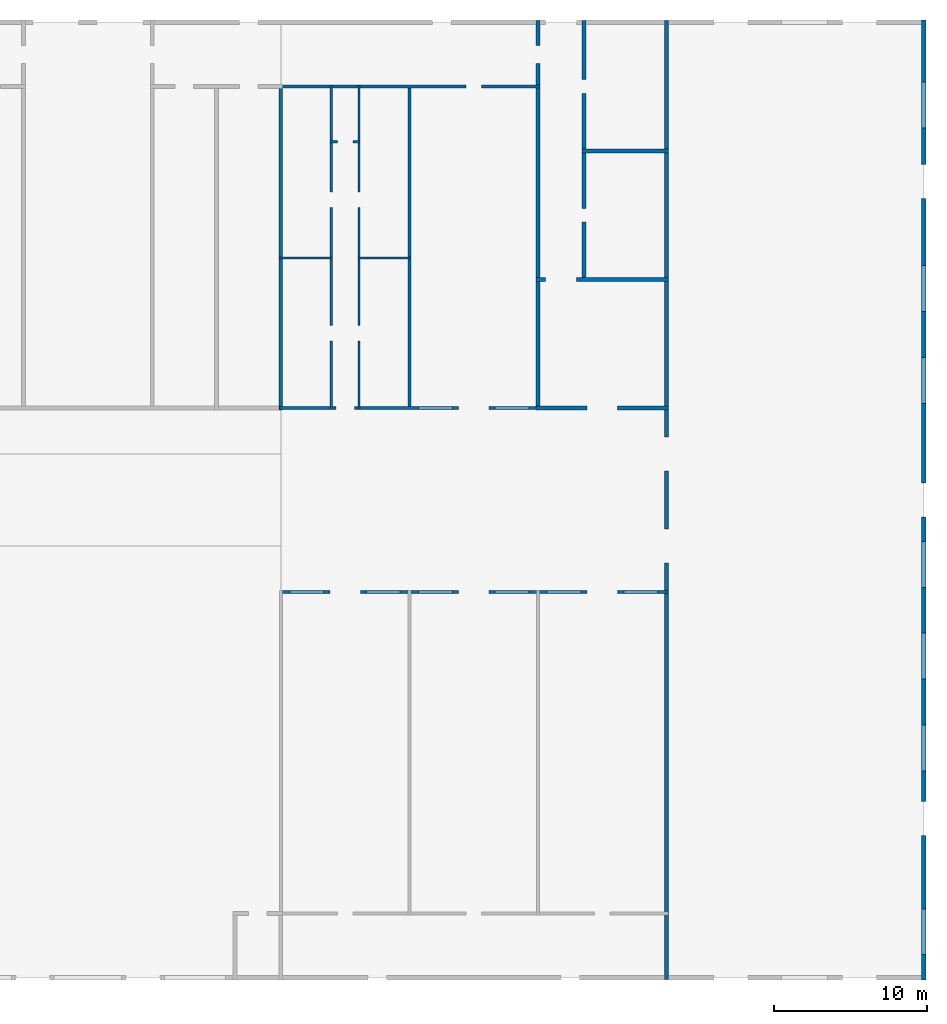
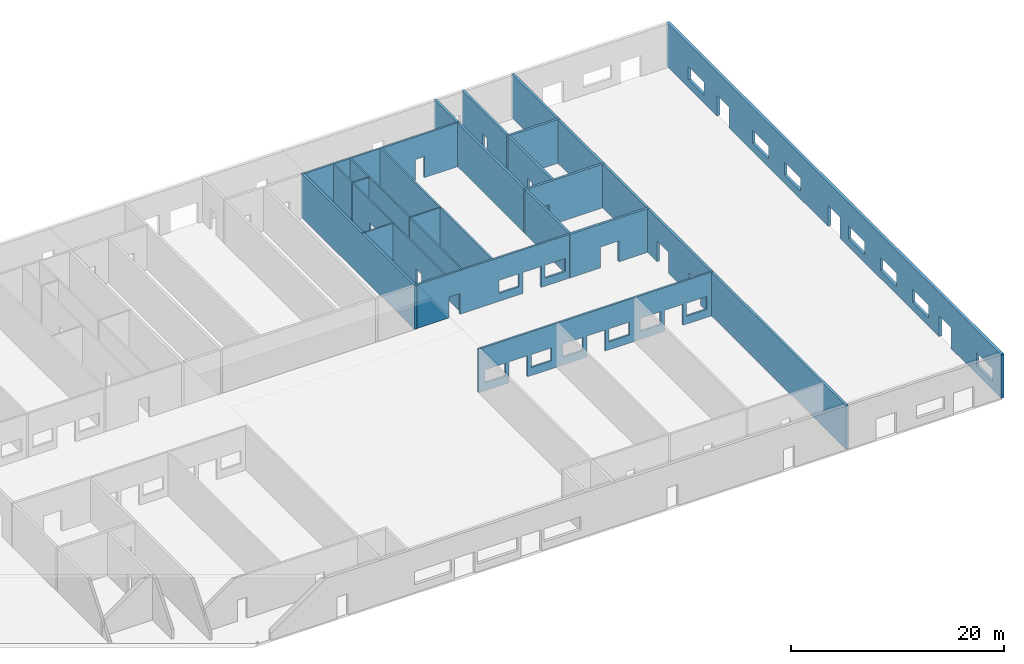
# One storey, part 3 of 3: 17 walls, 47 openings.
"""IFC4 building model written with IfcOpenShell, lengths in millimetres."""

from ifc_helpers import new_model, si_unit, frame, origin_with_axes, place, context, subcontext, project, spatial, indexed_curve, outline, extrude, type_object, element, save


model = new_model("IFC4")

# Units and contexts
model_context = context("Model", 3, precision=1e-05, world=origin_with_axes())
body_context = subcontext(model_context, "Body", "Model", "MODEL_VIEW")
ifc_project = project(units=[si_unit("AREAUNIT", "SQUARE_METRE"), si_unit("VOLUMEUNIT", "CUBIC_METRE"), si_unit("LENGTHUNIT", "METRE", prefix="MILLI")], contexts=[model_context])

# Site, building, storey
site = spatial("IfcSite", under=ifc_project, Name="PIN 00000000 (sample)")
building = spatial("IfcBuilding", under=site, Name="Sample Shopping Mall")
storey = spatial("IfcBuildingStorey", under=building, Name="Ground Floor", Elevation=0.0)

# Wall, openings
wall_type_1 = type_object("IfcWallType", Name="WT-300", PredefinedType="SOLIDWALL")
wall_1_placement = place(None, frame((114750.0, 15449.999999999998, 0.0), z_axis=(0.0, 0.0, 1.0), x_axis=(6.123233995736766e-17, 1.0, 0.0)))
wall_1 = element("IfcWall", 1, at=wall_1_placement, inside=storey, type_object=wall_type_1, Name="W56", context=body_context, shape_type="SweptSolid", body=[
    extrude(outline(indexed_curve([(0.0, 0.0), (0.0, 300.0), (62699.99999999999, 300.0), (62699.99999999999, 0.0), (0.0, 0.0)], self_intersect=False)), origin_with_axes(), (0.0, 0.0, 1.0), 5000.0),
])
opening_1_placement = place(wall_1_placement, frame((9450.0, -99.99999999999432, 0.0), z_axis=(0.0, 0.0, 1.0), x_axis=(1.0, 0.0, 0.0)))
element("IfcOpeningElement", 2, at=opening_1_placement, cuts=wall_1, Name="D16-opening", context=body_context, shape_type="SweptSolid", body=[
    extrude(outline(indexed_curve([(0.0, 0.0), (0.0, 500.0), (1100.0, 500.0), (1100.0, 0.0), (0.0, 0.0)], self_intersect=False)), origin_with_axes(), (0.0, 0.0, 1.0), 2400.0),
])
opening_2_placement = place(wall_1_placement, frame((10550.0, -99.99999999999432, 0.0), z_axis=(0.0, 0.0, 1.0), x_axis=(1.0, 0.0, 0.0)))
element("IfcOpeningElement", 3, at=opening_2_placement, cuts=wall_1, Name="-opening", context=body_context, shape_type="SweptSolid", body=[
    extrude(outline(indexed_curve([(0.0, 0.0), (0.0, 500.0), (1100.0, 500.0), (1100.0, 0.0), (0.0, 0.0)], self_intersect=False)), origin_with_axes(), (0.0, 0.0, 1.0), 2400.0),
])
opening_3_placement = place(wall_1_placement, frame((30250.000000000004, -99.99999999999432, 0.0), z_axis=(0.0, 0.0, 1.0), x_axis=(1.0, 0.0, 0.0)))
element("IfcOpeningElement", 4, at=opening_3_placement, cuts=wall_1, Name="D17-opening", context=body_context, shape_type="SweptSolid", body=[
    extrude(outline(indexed_curve([(0.0, 0.0), (0.0, 500.0), (1100.0, 500.0), (1100.0, 0.0), (0.0, 0.0)], self_intersect=False)), origin_with_axes(), (0.0, 0.0, 1.0), 2400.0),
])
opening_4_placement = place(wall_1_placement, frame((31349.999999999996, -99.99999999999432, 0.0), z_axis=(0.0, 0.0, 1.0), x_axis=(1.0, 0.0, 0.0)))
element("IfcOpeningElement", 5, at=opening_4_placement, cuts=wall_1, Name="-opening", context=body_context, shape_type="SweptSolid", body=[
    extrude(outline(indexed_curve([(0.0, 0.0), (0.0, 500.0), (1100.0, 500.0), (1100.0, 0.0), (0.0, 0.0)], self_intersect=False)), origin_with_axes(), (0.0, 0.0, 1.0), 2400.0),
])
opening_5_placement = place(wall_1_placement, frame((51049.99999999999, -99.99999999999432, 0.0), z_axis=(0.0, 0.0, 1.0), x_axis=(1.0, 0.0, 0.0)))
element("IfcOpeningElement", 6, at=opening_5_placement, cuts=wall_1, Name="D18-opening", context=body_context, shape_type="SweptSolid", body=[
    extrude(outline(indexed_curve([(0.0, 0.0), (0.0, 500.0), (1100.0, 500.0), (1100.0, 0.0), (0.0, 0.0)], self_intersect=False)), origin_with_axes(), (0.0, 0.0, 1.0), 2400.0),
])
opening_6_placement = place(wall_1_placement, frame((52149.99999999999, -99.99999999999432, 0.0), z_axis=(0.0, 0.0, 1.0), x_axis=(1.0, 0.0, 0.0)))
element("IfcOpeningElement", 7, at=opening_6_placement, cuts=wall_1, Name="-opening", context=body_context, shape_type="SweptSolid", body=[
    extrude(outline(indexed_curve([(0.0, 0.0), (0.0, 500.0), (1100.0, 500.0), (1100.0, 0.0), (0.0, 0.0)], self_intersect=False)), origin_with_axes(), (0.0, 0.0, 1.0), 2400.0),
])
opening_7_placement = place(wall_1_placement, frame((1650.000000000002, -99.99999999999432, 900.0), z_axis=(0.0, 0.0, 1.0), x_axis=(1.0, 0.0, 0.0)))
element("IfcOpeningElement", 8, at=opening_7_placement, cuts=wall_1, Name="-opening", context=body_context, shape_type="SweptSolid", body=[
    extrude(outline(indexed_curve([(0.0, 0.0), (0.0, 500.0), (3000.0, 500.0), (3000.0, 0.0), (0.0, 0.0)], self_intersect=False)), origin_with_axes(), (0.0, 0.0, 1.0), 1500.0),
])
opening_8_placement = place(wall_1_placement, frame((13650.000000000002, -99.99999999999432, 900.0), z_axis=(0.0, 0.0, 1.0), x_axis=(1.0, 0.0, 0.0)))
element("IfcOpeningElement", 9, at=opening_8_placement, cuts=wall_1, Name="-opening", context=body_context, shape_type="SweptSolid", body=[
    extrude(outline(indexed_curve([(0.0, 0.0), (0.0, 500.0), (3000.0, 500.0), (3000.0, 0.0), (0.0, 0.0)], self_intersect=False)), origin_with_axes(), (0.0, 0.0, 1.0), 1500.0),
])
opening_9_placement = place(wall_1_placement, frame((19650.0, -99.99999999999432, 900.0), z_axis=(0.0, 0.0, 1.0), x_axis=(1.0, 0.0, 0.0)))
element("IfcOpeningElement", 10, at=opening_9_placement, cuts=wall_1, Name="-opening", context=body_context, shape_type="SweptSolid", body=[
    extrude(outline(indexed_curve([(0.0, 0.0), (0.0, 500.0), (3000.0, 500.0), (3000.0, 0.0), (0.0, 0.0)], self_intersect=False)), origin_with_axes(), (0.0, 0.0, 1.0), 1500.0),
])
opening_10_placement = place(wall_1_placement, frame((25650.0, -99.99999999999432, 900.0), z_axis=(0.0, 0.0, 1.0), x_axis=(1.0, 0.0, 0.0)))
element("IfcOpeningElement", 11, at=opening_10_placement, cuts=wall_1, Name="-opening", context=body_context, shape_type="SweptSolid", body=[
    extrude(outline(indexed_curve([(0.0, 0.0), (0.0, 500.0), (3000.0, 500.0), (3000.0, 0.0), (0.0, 0.0)], self_intersect=False)), origin_with_axes(), (0.0, 0.0, 1.0), 1500.0),
])
opening_11_placement = place(wall_1_placement, frame((37650.00000000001, -99.99999999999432, 900.0), z_axis=(0.0, 0.0, 1.0), x_axis=(1.0, 0.0, 0.0)))
element("IfcOpeningElement", 12, at=opening_11_placement, cuts=wall_1, Name="-opening", context=body_context, shape_type="SweptSolid", body=[
    extrude(outline(indexed_curve([(0.0, 0.0), (0.0, 500.0), (3000.0, 500.0), (3000.0, 0.0), (0.0, 0.0)], self_intersect=False)), origin_with_axes(), (0.0, 0.0, 1.0), 1500.0),
])
opening_12_placement = place(wall_1_placement, frame((43650.00000000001, -99.99999999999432, 900.0), z_axis=(0.0, 0.0, 1.0), x_axis=(1.0, 0.0, 0.0)))
element("IfcOpeningElement", 13, at=opening_12_placement, cuts=wall_1, Name="-opening", context=body_context, shape_type="SweptSolid", body=[
    extrude(outline(indexed_curve([(0.0, 0.0), (0.0, 500.0), (3000.0, 500.0), (3000.0, 0.0), (0.0, 0.0)], self_intersect=False)), origin_with_axes(), (0.0, 0.0, 1.0), 1500.0),
])
opening_13_placement = place(wall_1_placement, frame((55650.00000000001, -99.99999999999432, 900.0), z_axis=(0.0, 0.0, 1.0), x_axis=(1.0, 0.0, 0.0)))
element("IfcOpeningElement", 14, at=opening_13_placement, cuts=wall_1, Name="-opening", context=body_context, shape_type="SweptSolid", body=[
    extrude(outline(indexed_curve([(0.0, 0.0), (0.0, 500.0), (3000.0, 500.0), (3000.0, 0.0), (0.0, 0.0)], self_intersect=False)), origin_with_axes(), (0.0, 0.0, 1.0), 1500.0),
])

wall_type_2 = type_object("IfcWallType", Name="WT-200", PredefinedType="SOLIDWALL")
wall_2_placement = place(None, frame((72500.0, 40699.99999999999, 0.0), z_axis=(0.0, 0.0, 1.0), x_axis=(1.0, 0.0, 0.0)))
wall_2 = element("IfcWall", 15, at=wall_2_placement, inside=storey, type_object=wall_type_2, Name="W9", context=body_context, shape_type="SweptSolid", body=[
    extrude(outline(indexed_curve([(0.0, 0.0), (0.0, 200.0), (25400.0, 200.0), (25400.0, 0.0), (0.0, 0.0)], self_intersect=False)), origin_with_axes(), (0.0, 0.0, 1.0), 5000.0),
])
opening_14_placement = place(wall_2_placement, frame((3299.9999999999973, -100.00000000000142, 0.0), z_axis=(0.0, 0.0, 1.0), x_axis=(1.0, 0.0, 0.0)))
element("IfcOpeningElement", 16, at=opening_14_placement, cuts=wall_2, Name="D41-opening", context=body_context, shape_type="SweptSolid", body=[
    extrude(outline(indexed_curve([(0.0, 0.0), (0.0, 400.0), (1000.0, 400.0), (1000.0, 0.0), (0.0, 0.0)], self_intersect=False)), origin_with_axes(), (0.0, 0.0, 1.0), 2400.0),
])
opening_15_placement = place(wall_2_placement, frame((4299.999999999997, -100.00000000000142, 0.0), z_axis=(0.0, 0.0, 1.0), x_axis=(1.0, 0.0, 0.0)))
element("IfcOpeningElement", 17, at=opening_15_placement, cuts=wall_2, Name="-opening", context=body_context, shape_type="SweptSolid", body=[
    extrude(outline(indexed_curve([(0.0, 0.0), (0.0, 400.0), (1000.0, 400.0), (1000.0, 0.0), (0.0, 0.0)], self_intersect=False)), origin_with_axes(), (0.0, 0.0, 1.0), 2400.0),
])
opening_16_placement = place(wall_2_placement, frame((11699.999999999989, -100.00000000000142, 0.0), z_axis=(0.0, 0.0, 1.0), x_axis=(1.0, 0.0, 0.0)))
element("IfcOpeningElement", 18, at=opening_16_placement, cuts=wall_2, Name="D43-opening", context=body_context, shape_type="SweptSolid", body=[
    extrude(outline(indexed_curve([(0.0, 0.0), (0.0, 400.0), (1000.0, 400.0), (1000.0, 0.0), (0.0, 0.0)], self_intersect=False)), origin_with_axes(), (0.0, 0.0, 1.0), 2400.0),
])
opening_17_placement = place(wall_2_placement, frame((12699.999999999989, -100.00000000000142, 0.0), z_axis=(0.0, 0.0, 1.0), x_axis=(1.0, 0.0, 0.0)))
element("IfcOpeningElement", 19, at=opening_17_placement, cuts=wall_2, Name="-opening", context=body_context, shape_type="SweptSolid", body=[
    extrude(outline(indexed_curve([(0.0, 0.0), (0.0, 400.0), (1000.0, 400.0), (1000.0, 0.0), (0.0, 0.0)], self_intersect=False)), origin_with_axes(), (0.0, 0.0, 1.0), 2400.0),
])
opening_18_placement = place(wall_2_placement, frame((20099.999999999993, -100.00000000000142, 0.0), z_axis=(0.0, 0.0, 1.0), x_axis=(1.0, 0.0, 0.0)))
element("IfcOpeningElement", 20, at=opening_18_placement, cuts=wall_2, Name="D45-opening", context=body_context, shape_type="SweptSolid", body=[
    extrude(outline(indexed_curve([(0.0, 0.0), (0.0, 400.0), (1000.0, 400.0), (1000.0, 0.0), (0.0, 0.0)], self_intersect=False)), origin_with_axes(), (0.0, 0.0, 1.0), 2400.0),
])
opening_19_placement = place(wall_2_placement, frame((21099.999999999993, -100.00000000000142, 0.0), z_axis=(0.0, 0.0, 1.0), x_axis=(1.0, 0.0, 0.0)))
element("IfcOpeningElement", 21, at=opening_19_placement, cuts=wall_2, Name="-opening", context=body_context, shape_type="SweptSolid", body=[
    extrude(outline(indexed_curve([(0.0, 0.0), (0.0, 400.0), (1000.0, 400.0), (1000.0, 0.0), (0.0, 0.0)], self_intersect=False)), origin_with_axes(), (0.0, 0.0, 1.0), 2400.0),
])
opening_20_placement = place(wall_2_placement, frame((699.9999999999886, -100.00000000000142, 900.0), z_axis=(0.0, 0.0, 1.0), x_axis=(1.0, 0.0, 0.0)))
element("IfcOpeningElement", 22, at=opening_20_placement, cuts=wall_2, Name="-opening", context=body_context, shape_type="SweptSolid", body=[
    extrude(outline(indexed_curve([(0.0, 0.0), (0.0, 400.0), (2200.0, 400.0), (2200.0, 0.0), (0.0, 0.0)], self_intersect=False)), origin_with_axes(), (0.0, 0.0, 1.0), 1500.0),
])
opening_21_placement = place(wall_2_placement, frame((5699.999999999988, -100.00000000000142, 900.0), z_axis=(0.0, 0.0, 1.0), x_axis=(1.0, 0.0, 0.0)))
element("IfcOpeningElement", 23, at=opening_21_placement, cuts=wall_2, Name="-opening", context=body_context, shape_type="SweptSolid", body=[
    extrude(outline(indexed_curve([(0.0, 0.0), (0.0, 400.0), (2200.0, 400.0), (2200.0, 0.0), (0.0, 0.0)], self_intersect=False)), origin_with_axes(), (0.0, 0.0, 1.0), 1500.0),
])
opening_22_placement = place(wall_2_placement, frame((9099.99999999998, -100.00000000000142, 900.0), z_axis=(0.0, 0.0, 1.0), x_axis=(1.0, 0.0, 0.0)))
element("IfcOpeningElement", 24, at=opening_22_placement, cuts=wall_2, Name="-opening", context=body_context, shape_type="SweptSolid", body=[
    extrude(outline(indexed_curve([(0.0, 0.0), (0.0, 400.0), (2200.0, 400.0), (2200.0, 0.0), (0.0, 0.0)], self_intersect=False)), origin_with_axes(), (0.0, 0.0, 1.0), 1500.0),
])
opening_23_placement = place(wall_2_placement, frame((14099.999999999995, -100.00000000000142, 900.0), z_axis=(0.0, 0.0, 1.0), x_axis=(1.0, 0.0, 0.0)))
element("IfcOpeningElement", 25, at=opening_23_placement, cuts=wall_2, Name="-opening", context=body_context, shape_type="SweptSolid", body=[
    extrude(outline(indexed_curve([(0.0, 0.0), (0.0, 400.0), (2200.0, 400.0), (2200.0, 0.0), (0.0, 0.0)], self_intersect=False)), origin_with_axes(), (0.0, 0.0, 1.0), 1500.0),
])
opening_24_placement = place(wall_2_placement, frame((17500.0, -100.00000000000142, 900.0), z_axis=(0.0, 0.0, 1.0), x_axis=(1.0, 0.0, 0.0)))
element("IfcOpeningElement", 26, at=opening_24_placement, cuts=wall_2, Name="-opening", context=body_context, shape_type="SweptSolid", body=[
    extrude(outline(indexed_curve([(0.0, 0.0), (0.0, 400.0), (2200.0, 400.0), (2200.0, 0.0), (0.0, 0.0)], self_intersect=False)), origin_with_axes(), (0.0, 0.0, 1.0), 1500.0),
])
opening_25_placement = place(wall_2_placement, frame((22500.0, -100.00000000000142, 900.0), z_axis=(0.0, 0.0, 1.0), x_axis=(1.0, 0.0, 0.0)))
element("IfcOpeningElement", 27, at=opening_25_placement, cuts=wall_2, Name="-opening", context=body_context, shape_type="SweptSolid", body=[
    extrude(outline(indexed_curve([(0.0, 0.0), (0.0, 400.0), (2200.0, 400.0), (2200.0, 0.0), (0.0, 0.0)], self_intersect=False)), origin_with_axes(), (0.0, 0.0, 1.0), 1500.0),
])

wall_3_placement = place(None, frame((72500.0, 52699.99999999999, 0.0), z_axis=(0.0, 0.0, 1.0), x_axis=(1.0, 0.0, 0.0)))
wall_3 = element("IfcWall", 28, at=wall_3_placement, inside=storey, type_object=wall_type_2, Name="W12", context=body_context, shape_type="SweptSolid", body=[
    extrude(outline(indexed_curve([(0.0, 0.0), (0.0, 200.0), (17000.00000000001, 200.0), (17000.00000000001, 0.0), (0.0, 0.0)], self_intersect=False)), origin_with_axes(), (0.0, 0.0, 1.0), 5000.0),
])
opening_26_placement = place(wall_3_placement, frame((3699.9999999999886, -100.00000000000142, 0.0), z_axis=(0.0, 0.0, 1.0), x_axis=(1.0, 0.0, 0.0)))
element("IfcOpeningElement", 29, at=opening_26_placement, cuts=wall_3, Name="D65-opening", context=body_context, shape_type="SweptSolid", body=[
    extrude(outline(indexed_curve([(0.0, 0.0), (0.0, 400.0), (1200.0, 400.0), (1200.0, 0.0), (0.0, 0.0)], self_intersect=False)), origin_with_axes(), (0.0, 0.0, 1.0), 2400.0),
])
opening_27_placement = place(wall_3_placement, frame((11699.999999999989, -100.00000000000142, 0.0), z_axis=(0.0, 0.0, 1.0), x_axis=(1.0, 0.0, 0.0)))
element("IfcOpeningElement", 30, at=opening_27_placement, cuts=wall_3, Name="D71-opening", context=body_context, shape_type="SweptSolid", body=[
    extrude(outline(indexed_curve([(0.0, 0.0), (0.0, 400.0), (1000.0, 400.0), (1000.0, 0.0), (0.0, 0.0)], self_intersect=False)), origin_with_axes(), (0.0, 0.0, 1.0), 2400.0),
])
opening_28_placement = place(wall_3_placement, frame((12699.999999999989, -100.00000000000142, 0.0), z_axis=(0.0, 0.0, 1.0), x_axis=(1.0, 0.0, 0.0)))
element("IfcOpeningElement", 31, at=opening_28_placement, cuts=wall_3, Name="-opening", context=body_context, shape_type="SweptSolid", body=[
    extrude(outline(indexed_curve([(0.0, 0.0), (0.0, 400.0), (1000.0, 400.0), (1000.0, 0.0), (0.0, 0.0)], self_intersect=False)), origin_with_axes(), (0.0, 0.0, 1.0), 2400.0),
])
opening_29_placement = place(wall_3_placement, frame((9099.99999999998, -100.00000000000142, 900.0), z_axis=(0.0, 0.0, 1.0), x_axis=(1.0, 0.0, 0.0)))
element("IfcOpeningElement", 32, at=opening_29_placement, cuts=wall_3, Name="-opening", context=body_context, shape_type="SweptSolid", body=[
    extrude(outline(indexed_curve([(0.0, 0.0), (0.0, 400.0), (2200.0, 400.0), (2200.0, 0.0), (0.0, 0.0)], self_intersect=False)), origin_with_axes(), (0.0, 0.0, 1.0), 1500.0),
])
opening_30_placement = place(wall_3_placement, frame((14099.999999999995, -100.00000000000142, 900.0), z_axis=(0.0, 0.0, 1.0), x_axis=(1.0, 0.0, 0.0)))
element("IfcOpeningElement", 33, at=opening_30_placement, cuts=wall_3, Name="-opening", context=body_context, shape_type="SweptSolid", body=[
    extrude(outline(indexed_curve([(0.0, 0.0), (0.0, 400.0), (2200.0, 400.0), (2200.0, 0.0), (0.0, 0.0)], self_intersect=False)), origin_with_axes(), (0.0, 0.0, 1.0), 1500.0),
])

# Wall, opening
wall_4_placement = place(None, frame((72500.0, 73700.0, 0.0), z_axis=(0.0, 0.0, 1.0), x_axis=(1.0, 0.0, 0.0)))
wall_4 = element("IfcWall", 34, at=wall_4_placement, inside=storey, type_object=wall_type_2, Name="W25", context=body_context, shape_type="SweptSolid", body=[
    extrude(outline(indexed_curve([(0.0, 0.0), (0.0, 200.0), (17000.00000000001, 200.0), (17000.00000000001, 0.0), (0.0, 0.0)], self_intersect=False)), origin_with_axes(), (0.0, 0.0, 1.0), 5000.0),
])
opening_31_placement = place(wall_4_placement, frame((12199.999999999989, -99.99999999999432, 0.0), z_axis=(0.0, 0.0, 1.0), x_axis=(1.0, 0.0, 0.0)))
element("IfcOpeningElement", 35, at=opening_31_placement, cuts=wall_4, Name="-opening", context=body_context, shape_type="SweptSolid", body=[
    extrude(outline(indexed_curve([(0.0, 0.0), (0.0, 400.0), (1000.0, 400.0), (1000.0, 0.0), (0.0, 0.0)], self_intersect=False)), origin_with_axes(), (0.0, 0.0, 1.0), 2400.0),
])

# Wall
wall_5_placement = place(None, frame((81099.99999999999, 52699.99999999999, 0.0), z_axis=(0.0, 0.0, 1.0), x_axis=(6.123233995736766e-17, 1.0, 0.0)))
element("IfcWall", 36, at=wall_5_placement, inside=storey, type_object=wall_type_2, Name="W51", context=body_context, shape_type="SweptSolid", body=[
    extrude(outline(indexed_curve([(0.0, 0.0), (0.0, 200.0), (21200.0, 200.0), (21200.0, 0.0), (0.0, 0.0)], self_intersect=False)), origin_with_axes(), (0.0, 0.0, 1.0), 5000.0),
])

# Wall, openings
wall_type_3 = type_object("IfcWallType", Name="WT-250", PredefinedType="SOLIDWALL")
wall_6_placement = place(None, frame((89275.0, 52674.99999999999, 0.0), z_axis=(0.0, 0.0, 1.0), x_axis=(1.0, 0.0, 0.0)))
wall_6 = element("IfcWall", 37, at=wall_6_placement, inside=storey, type_object=wall_type_3, Name="W13", context=body_context, shape_type="SweptSolid", body=[
    extrude(outline(indexed_curve([(0.0, 0.0), (0.0, 250.0), (8649.99999999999, 250.0), (8649.99999999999, 0.0), (0.0, 0.0)], self_intersect=False)), origin_with_axes(), (0.0, 0.0, 1.0), 5000.0),
])
opening_32_placement = place(wall_6_placement, frame((3325.0000000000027, -100.00000000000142, 0.0), z_axis=(0.0, 0.0, 1.0), x_axis=(1.0, 0.0, 0.0)))
element("IfcOpeningElement", 38, at=opening_32_placement, cuts=wall_6, Name="D73-opening", context=body_context, shape_type="SweptSolid", body=[
    extrude(outline(indexed_curve([(0.0, 0.0), (0.0, 450.0), (1000.0, 450.0), (1000.0, 0.0), (0.0, 0.0)], self_intersect=False)), origin_with_axes(), (0.0, 0.0, 1.0), 2400.0),
])
opening_33_placement = place(wall_6_placement, frame((4325.000000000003, -100.00000000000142, 0.0), z_axis=(0.0, 0.0, 1.0), x_axis=(1.0, 0.0, 0.0)))
element("IfcOpeningElement", 39, at=opening_33_placement, cuts=wall_6, Name="-opening", context=body_context, shape_type="SweptSolid", body=[
    extrude(outline(indexed_curve([(0.0, 0.0), (0.0, 450.0), (1000.0, 450.0), (1000.0, 0.0), (0.0, 0.0)], self_intersect=False)), origin_with_axes(), (0.0, 0.0, 1.0), 2400.0),
])

wall_7_placement = place(None, frame((89275.0, 61075.0, 0.0), z_axis=(0.0, 0.0, 1.0), x_axis=(1.0, 0.0, 0.0)))
wall_7 = element("IfcWall", 40, at=wall_7_placement, inside=storey, type_object=wall_type_3, Name="W14", context=body_context, shape_type="SweptSolid", body=[
    extrude(outline(indexed_curve([(0.0, 0.0), (0.0, 250.0), (8649.99999999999, 250.0), (8649.99999999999, 0.0), (0.0, 0.0)], self_intersect=False)), origin_with_axes(), (0.0, 0.0, 1.0), 5000.0),
])
opening_34_placement = place(wall_7_placement, frame((625.0, -100.00000000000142, 0.0), z_axis=(0.0, 0.0, 1.0), x_axis=(1.0, 0.0, 0.0)))
element("IfcOpeningElement", 41, at=opening_34_placement, cuts=wall_7, Name="D74-opening", context=body_context, shape_type="SweptSolid", body=[
    extrude(outline(indexed_curve([(0.0, 0.0), (0.0, 450.0), (1000.0, 450.0), (1000.0, 0.0), (0.0, 0.0)], self_intersect=False)), origin_with_axes(), (0.0, 0.0, 1.0), 2400.0),
])
opening_35_placement = place(wall_7_placement, frame((1625.0, -100.00000000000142, 0.0), z_axis=(0.0, 0.0, 1.0), x_axis=(1.0, 0.0, 0.0)))
element("IfcOpeningElement", 42, at=opening_35_placement, cuts=wall_7, Name="-opening", context=body_context, shape_type="SweptSolid", body=[
    extrude(outline(indexed_curve([(0.0, 0.0), (0.0, 450.0), (1000.0, 450.0), (1000.0, 0.0), (0.0, 0.0)], self_intersect=False)), origin_with_axes(), (0.0, 0.0, 1.0), 2400.0),
])

# Walls
wall_8_placement = place(None, frame((92275.0, 69475.0, 0.0), z_axis=(0.0, 0.0, 1.0), x_axis=(1.0, 0.0, 0.0)))
element("IfcWall", 43, at=wall_8_placement, inside=storey, type_object=wall_type_3, Name="W19", context=body_context, shape_type="SweptSolid", body=[
    extrude(outline(indexed_curve([(0.0, 0.0), (0.0, 250.0), (5649.999999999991, 250.0), (5649.999999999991, 0.0), (0.0, 0.0)], self_intersect=False)), origin_with_axes(), (0.0, 0.0, 1.0), 5000.0),
])
wall_9_placement = place(None, frame((72725.0, 52674.99999999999, 0.0), z_axis=(0.0, 0.0, 1.0), x_axis=(6.123233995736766e-17, 1.0, 0.0)))
element("IfcWall", 44, at=wall_9_placement, inside=storey, type_object=wall_type_3, Name="W47", context=body_context, shape_type="SweptSolid", body=[
    extrude(outline(indexed_curve([(0.0, 0.0), (0.0, 250.0), (21250.0, 250.0), (21250.0, 0.0), (0.0, 0.0)], self_intersect=False)), origin_with_axes(), (0.0, 0.0, 1.0), 5000.0),
])

# Wall, opening
wall_10_placement = place(None, frame((89525.0, 52674.99999999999, 0.0), z_axis=(0.0, 0.0, 1.0), x_axis=(6.123233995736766e-17, 1.0, 0.0)))
wall_10 = element("IfcWall", 45, at=wall_10_placement, inside=storey, type_object=wall_type_3, Name="W53", context=body_context, shape_type="SweptSolid", body=[
    extrude(outline(indexed_curve([(0.0, 0.0), (0.0, 250.0), (25450.000000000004, 250.0), (25450.000000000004, 0.0), (0.0, 0.0)], self_intersect=False)), origin_with_axes(), (0.0, 0.0, 1.0), 5000.0),
])
opening_36_placement = place(wall_10_placement, frame((22624.999999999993, -99.99999999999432, 0.0), z_axis=(0.0, 0.0, 1.0), x_axis=(1.0, 0.0, 0.0)))
element("IfcOpeningElement", 46, at=opening_36_placement, cuts=wall_10, Name="-opening", context=body_context, shape_type="SweptSolid", body=[
    extrude(outline(indexed_curve([(0.0, 0.0), (0.0, 450.0), (1200.0, 450.0), (1200.0, 0.0), (0.0, 0.0)], self_intersect=False)), origin_with_axes(), (0.0, 0.0, 1.0), 2400.0),
])

# Wall, openings
wall_11_placement = place(None, frame((92525.0, 61075.0, 0.0), z_axis=(0.0, 0.0, 1.0), x_axis=(6.123233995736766e-17, 1.0, 0.0)))
wall_11 = element("IfcWall", 47, at=wall_11_placement, inside=storey, type_object=wall_type_3, Name="W54", context=body_context, shape_type="SweptSolid", body=[
    extrude(outline(indexed_curve([(0.0, 0.0), (0.0, 250.0), (17049.999999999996, 250.0), (17049.999999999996, 0.0), (0.0, 0.0)], self_intersect=False)), origin_with_axes(), (0.0, 0.0, 1.0), 5000.0),
])
opening_37_placement = place(wall_11_placement, frame((3874.9999999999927, -99.99999999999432, 0.0), z_axis=(0.0, 0.0, 1.0), x_axis=(1.0, 0.0, 0.0)))
element("IfcOpeningElement", 48, at=opening_37_placement, cuts=wall_11, Name="-opening", context=body_context, shape_type="SweptSolid", body=[
    extrude(outline(indexed_curve([(0.0, 0.0), (0.0, 450.0), (900.0, 450.0), (900.0, 0.0), (0.0, 0.0)], self_intersect=False)), origin_with_axes(), (0.0, 0.0, 1.0), 2400.0),
])
opening_38_placement = place(wall_11_placement, frame((12274.999999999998, -99.99999999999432, 0.0), z_axis=(0.0, 0.0, 1.0), x_axis=(1.0, 0.0, 0.0)))
element("IfcOpeningElement", 49, at=opening_38_placement, cuts=wall_11, Name="-opening", context=body_context, shape_type="SweptSolid", body=[
    extrude(outline(indexed_curve([(0.0, 0.0), (0.0, 450.0), (900.0, 450.0), (900.0, 0.0), (0.0, 0.0)], self_intersect=False)), origin_with_axes(), (0.0, 0.0, 1.0), 2400.0),
])

wall_12_placement = place(None, frame((97925.0, 15475.0, 0.0), z_axis=(0.0, 0.0, 1.0), x_axis=(6.123233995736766e-17, 1.0, 0.0)))
wall_12 = element("IfcWall", 50, at=wall_12_placement, inside=storey, type_object=wall_type_3, Name="W55", context=body_context, shape_type="SweptSolid", body=[
    extrude(outline(indexed_curve([(0.0, 0.0), (0.0, 250.0), (62650.0, 250.0), (62650.0, 0.0), (0.0, 0.0)], self_intersect=False)), origin_with_axes(), (0.0, 0.0, 1.0), 5000.0),
])
opening_39_placement = place(wall_12_placement, frame((27225.000000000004, -99.99999999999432, 0.0), z_axis=(0.0, 0.0, 1.0), x_axis=(1.0, 0.0, 0.0)))
element("IfcOpeningElement", 51, at=opening_39_placement, cuts=wall_12, Name="D14-opening", context=body_context, shape_type="SweptSolid", body=[
    extrude(outline(indexed_curve([(0.0, 0.0), (0.0, 450.0), (1100.0, 450.0), (1100.0, 0.0), (0.0, 0.0)], self_intersect=False)), origin_with_axes(), (0.0, 0.0, 1.0), 2400.0),
])
opening_40_placement = place(wall_12_placement, frame((28325.0, -99.99999999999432, 0.0), z_axis=(0.0, 0.0, 1.0), x_axis=(1.0, 0.0, 0.0)))
element("IfcOpeningElement", 52, at=opening_40_placement, cuts=wall_12, Name="-opening", context=body_context, shape_type="SweptSolid", body=[
    extrude(outline(indexed_curve([(0.0, 0.0), (0.0, 450.0), (1100.0, 450.0), (1100.0, 0.0), (0.0, 0.0)], self_intersect=False)), origin_with_axes(), (0.0, 0.0, 1.0), 2400.0),
])
opening_41_placement = place(wall_12_placement, frame((33225.00000000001, -99.99999999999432, 0.0), z_axis=(0.0, 0.0, 1.0), x_axis=(1.0, 0.0, 0.0)))
element("IfcOpeningElement", 53, at=opening_41_placement, cuts=wall_12, Name="D15-opening", context=body_context, shape_type="SweptSolid", body=[
    extrude(outline(indexed_curve([(0.0, 0.0), (0.0, 450.0), (1100.0, 450.0), (1100.0, 0.0), (0.0, 0.0)], self_intersect=False)), origin_with_axes(), (0.0, 0.0, 1.0), 2400.0),
])
opening_42_placement = place(wall_12_placement, frame((34325.0, -99.99999999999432, 0.0), z_axis=(0.0, 0.0, 1.0), x_axis=(1.0, 0.0, 0.0)))
element("IfcOpeningElement", 54, at=opening_42_placement, cuts=wall_12, Name="-opening", context=body_context, shape_type="SweptSolid", body=[
    extrude(outline(indexed_curve([(0.0, 0.0), (0.0, 450.0), (1100.0, 450.0), (1100.0, 0.0), (0.0, 0.0)], self_intersect=False)), origin_with_axes(), (0.0, 0.0, 1.0), 2400.0),
])

# Walls
wall_type_4 = type_object("IfcWallType", Name="WT-150", PredefinedType="SOLIDWALL")
wall_13_placement = place(None, frame((72524.99999999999, 62525.0, 0.0), z_axis=(0.0, 0.0, 1.0), x_axis=(1.0, 0.0, 0.0)))
element("IfcWall", 55, at=wall_13_placement, inside=storey, type_object=wall_type_4, Name="W17", context=body_context, shape_type="SweptSolid", body=[
    extrude(outline(indexed_curve([(0.0, 0.0), (0.0, 150.0), (3450.0000000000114, 150.0), (3450.0000000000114, 0.0), (0.0, 0.0)], self_intersect=False)), origin_with_axes(), (0.0, 0.0, 1.0), 5000.0),
])
wall_14_placement = place(None, frame((77625.0, 62525.0, 0.0), z_axis=(0.0, 0.0, 1.0), x_axis=(1.0, 0.0, 0.0)))
element("IfcWall", 56, at=wall_14_placement, inside=storey, type_object=wall_type_4, Name="W18", context=body_context, shape_type="SweptSolid", body=[
    extrude(outline(indexed_curve([(0.0, 0.0), (0.0, 150.0), (3449.999999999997, 150.0), (3449.999999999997, 0.0), (0.0, 0.0)], self_intersect=False)), origin_with_axes(), (0.0, 0.0, 1.0), 5000.0),
])

# Wall, opening
wall_15_placement = place(None, frame((75825.0, 70125.0, 0.0), z_axis=(0.0, 0.0, 1.0), x_axis=(1.0, 0.0, 0.0)))
wall_15 = element("IfcWall", 57, at=wall_15_placement, inside=storey, type_object=wall_type_4, Name="W21", context=body_context, shape_type="SweptSolid", body=[
    extrude(outline(indexed_curve([(0.0, 0.0), (0.0, 150.0), (1949.999999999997, 150.0), (1949.999999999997, 0.0), (0.0, 0.0)], self_intersect=False)), origin_with_axes(), (0.0, 0.0, 1.0), 5000.0),
])
opening_43_placement = place(wall_15_placement, frame((475.0000000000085, -99.99999999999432, 0.0), z_axis=(0.0, 0.0, 1.0), x_axis=(1.0, 0.0, 0.0)))
element("IfcOpeningElement", 58, at=opening_43_placement, cuts=wall_15, Name="-opening", context=body_context, shape_type="SweptSolid", body=[
    extrude(outline(indexed_curve([(0.0, 0.0), (0.0, 349.99999999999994), (1000.0, 349.99999999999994), (1000.0, 0.0), (0.0, 0.0)], self_intersect=False)), origin_with_axes(), (0.0, 0.0, 1.0), 2400.0),
])

# Wall, openings
wall_16_placement = place(None, frame((75975.0, 52724.99999999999, 0.0), z_axis=(0.0, 0.0, 1.0), x_axis=(6.123233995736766e-17, 1.0, 0.0)))
wall_16 = element("IfcWall", 59, at=wall_16_placement, inside=storey, type_object=wall_type_4, Name="W48", context=body_context, shape_type="SweptSolid", body=[
    extrude(outline(indexed_curve([(0.0, 0.0), (0.0, 150.0), (21149.999999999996, 150.0), (21149.999999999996, 0.0), (0.0, 0.0)], self_intersect=False)), origin_with_axes(), (0.0, 0.0, 1.0), 5000.0),
])
opening_44_placement = place(wall_16_placement, frame((4475.000000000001, -99.99999999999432, 0.0), z_axis=(0.0, 0.0, 1.0), x_axis=(1.0, 0.0, 0.0)))
element("IfcOpeningElement", 60, at=opening_44_placement, cuts=wall_16, Name="-opening", context=body_context, shape_type="SweptSolid", body=[
    extrude(outline(indexed_curve([(0.0, 0.0), (0.0, 349.99999999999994), (1000.0, 349.99999999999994), (1000.0, 0.0), (0.0, 0.0)], self_intersect=False)), origin_with_axes(), (0.0, 0.0, 1.0), 2400.0),
])
opening_45_placement = place(wall_16_placement, frame((13174.999999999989, -99.99999999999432, 0.0), z_axis=(0.0, 0.0, 1.0), x_axis=(1.0, 0.0, 0.0)))
element("IfcOpeningElement", 61, at=opening_45_placement, cuts=wall_16, Name="-opening", context=body_context, shape_type="SweptSolid", body=[
    extrude(outline(indexed_curve([(0.0, 0.0), (0.0, 349.99999999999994), (1000.0, 349.99999999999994), (1000.0, 0.0), (0.0, 0.0)], self_intersect=False)), origin_with_axes(), (0.0, 0.0, 1.0), 2400.0),
])

wall_17_placement = place(None, frame((77775.0, 52724.99999999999, 0.0), z_axis=(0.0, 0.0, 1.0), x_axis=(6.123233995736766e-17, 1.0, 0.0)))
wall_17 = element("IfcWall", 62, at=wall_17_placement, inside=storey, type_object=wall_type_4, Name="W49", context=body_context, shape_type="SweptSolid", body=[
    extrude(outline(indexed_curve([(0.0, 0.0), (0.0, 150.0), (21149.999999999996, 150.0), (21149.999999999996, 0.0), (0.0, 0.0)], self_intersect=False)), origin_with_axes(), (0.0, 0.0, 1.0), 5000.0),
])
opening_46_placement = place(wall_17_placement, frame((4475.000000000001, -99.99999999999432, 0.0), z_axis=(0.0, 0.0, 1.0), x_axis=(1.0, 0.0, 0.0)))
element("IfcOpeningElement", 63, at=opening_46_placement, cuts=wall_17, Name="-opening", context=body_context, shape_type="SweptSolid", body=[
    extrude(outline(indexed_curve([(0.0, 0.0), (0.0, 349.99999999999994), (1000.0, 349.99999999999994), (1000.0, 0.0), (0.0, 0.0)], self_intersect=False)), origin_with_axes(), (0.0, 0.0, 1.0), 2400.0),
])
opening_47_placement = place(wall_17_placement, frame((13174.999999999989, -99.99999999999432, 0.0), z_axis=(0.0, 0.0, 1.0), x_axis=(1.0, 0.0, 0.0)))
element("IfcOpeningElement", 64, at=opening_47_placement, cuts=wall_17, Name="-opening", context=body_context, shape_type="SweptSolid", body=[
    extrude(outline(indexed_curve([(0.0, 0.0), (0.0, 349.99999999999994), (1000.0, 349.99999999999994), (1000.0, 0.0), (0.0, 0.0)], self_intersect=False)), origin_with_axes(), (0.0, 0.0, 1.0), 2400.0),
])

save(model, "model.ifc")
